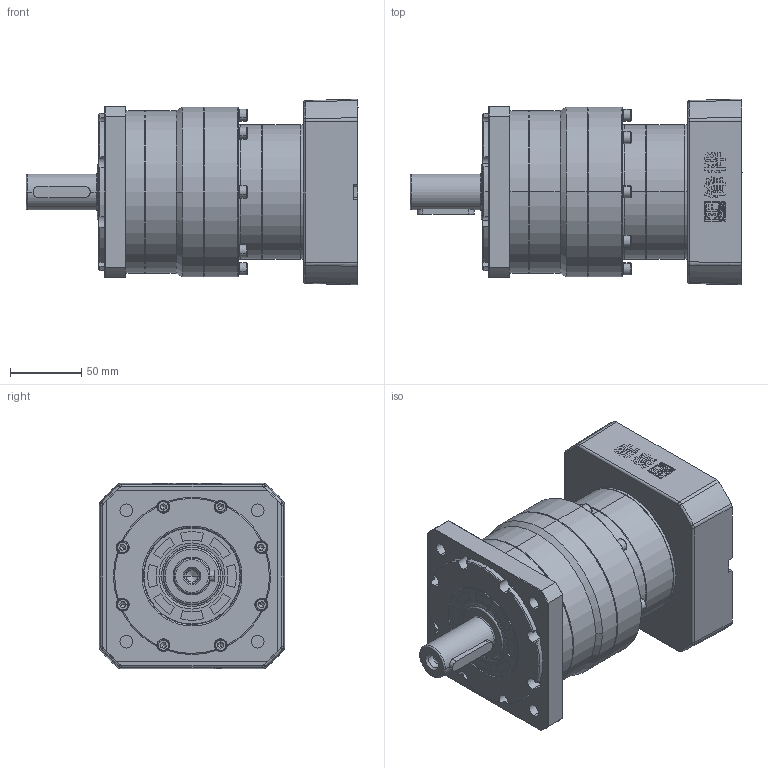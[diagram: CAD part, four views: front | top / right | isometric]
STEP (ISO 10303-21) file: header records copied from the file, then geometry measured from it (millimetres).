
FILE_DESCRIPTION (( 'STEP AP214' ), '1' );
FILE_NAME ('FB120-L2-S2-P2 22-110-145-M8.STEP', '2021-04-23T07:04:06', ( 'Microsoft' ), ( 'Microsoft China' ), 'SwSTEP 2.0', 'SolidWorks 2016', '' );
FILE_SCHEMA (( 'AUTOMOTIVE_DESIGN' ));
Length unit declared in the file: millimetre
Products named in the file (16): 嘎殤蚐猾 40-68-8; A倰す瑩8-40; hex socket set screws with cone point gb_GB_FASTENER_SCREWS_HSCP M12X10-N_1; hexagon socket head cap screws gb_GB_FASTENER_SCREWS_HSHCS M5X10-N; hexagon socket head cap screws gb_GB_FASTENER_SCREWS_HSHCS M6X10-N; 输入轴锁紧环 26-52-14; 输入太阳齿轮FB090-5M1-22; 13-FB090M1-110; 输入端壳体FB090M1; FB120-L2-S2-P2 22-110-145-M8; hexagon socket head cap screws gb_GB_FASTENER_SCREWS_HSHCS M5X20-N; spring lock washers--normal type gb_GB_FASTENER_WASHER_SW 5; 怀堤傷褲极FGA120; 一级内齿圈壳体FB090D; 怀堤俴陎殤FB115D-25-50-M10; 内齿圈FB120
Assembly tree (42 placements, depth 2):
  FB120-L2-S2-P2 22-110-145-M8
    输入端壳体FB090M1
    13-FB090M1-110
    输入太阳齿轮FB090-5M1-22
    输入轴锁紧环 26-52-14
    hexagon socket head cap screws gb_GB_FASTENER_SCREWS_HSHCS M6X10-N
    hexagon socket head cap screws gb_GB_FASTENER_SCREWS_HSHCS M5X10-N  x6
    hex socket set screws with cone point gb_GB_FASTENER_SCREWS_HSCP M12X10-N_1
    A倰す瑩8-40
    嘎殤蚐猾 40-68-8
    内齿圈FB120
    怀堤俴陎殤FB115D-25-50-M10
    一级内齿圈壳体FB090D
    怀堤傷褲极FGA120
    spring lock washers--normal type gb_GB_FASTENER_WASHER_SW 5  x8
    hexagon socket head cap screws gb_GB_FASTENER_SCREWS_HSHCS M5X20-N  x16
Bounding box: 232.5 x 130 x 130 mm (x, y, z)
Volume: 1730302.9 mm3; surface area: 284434.2 mm2
Topology: 42 solids, 42 shells, 1986 faces, 4768 edges, 2920 vertices
Faces by surface type: plane 810, bspline 431, cylinder 365, cone 276, torus 98, sphere 6
Entity records: 78048 total; most frequent: CARTESIAN_POINT 31317, ORIENTED_EDGE 6856, DIRECTION 5472, EDGE_CURVE 3428, VERTEX_POINT 2127, AXIS2_PLACEMENT_3D 1992, EDGE_LOOP 1559, VECTOR 1488
